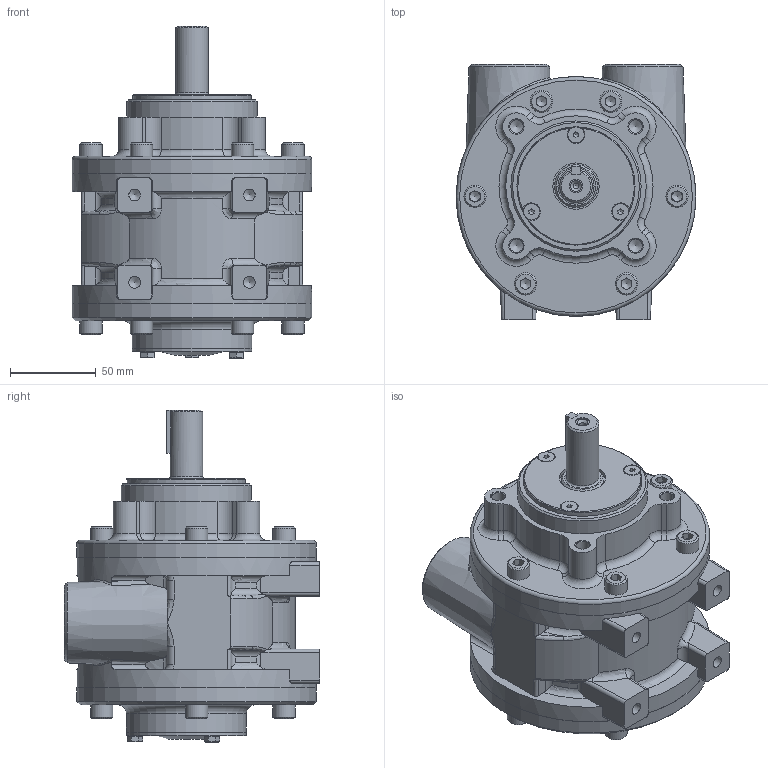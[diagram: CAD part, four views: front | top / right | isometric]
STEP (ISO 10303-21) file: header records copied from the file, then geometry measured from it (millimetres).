
FILE_DESCRIPTION (( 'STEP AP214' ), '1' );
FILE_NAME ('VA8X Defeature.STEP', '2022-06-14T09:18:44', ( '' ), ( '' ), 'SwSTEP 2.0', 'SolidWorks 2020', '' );
FILE_SCHEMA (( 'AUTOMOTIVE_DESIGN' ));
Length unit declared in the file: millimetre
Products named in the file (1): VA8X Defeature
Bounding box: 140 x 149 x 193.9 mm (x, y, z)
Volume: 1708650.7 mm3; surface area: 118258.9 mm2
Topology: 1 solids, 1 shells, 605 faces, 1503 edges, 925 vertices
Faces by surface type: plane 322, cylinder 131, cone 79, torus 43, bspline 26, sphere 4
Full cylindrical faces by diameter (mm): 3.4 x1, 6.8 x4, 7.937 x2, 7.938 x2, 8 x4, 9.64 x3, 13 x12, 19.06 x1, 25 x1, 27 x1, 30.291 x2, 69 x1, 69.8 x1, 70 x2, 76.1 x1, 138 x2, 140 x3
Entity records: 23262 total; most frequent: CARTESIAN_POINT 7511, ORIENTED_EDGE 2678, DIRECTION 2656, EDGE_CURVE 1339, AXIS2_PLACEMENT_3D 999, VERTEX_POINT 867, EDGE_LOOP 736, VECTOR 658
